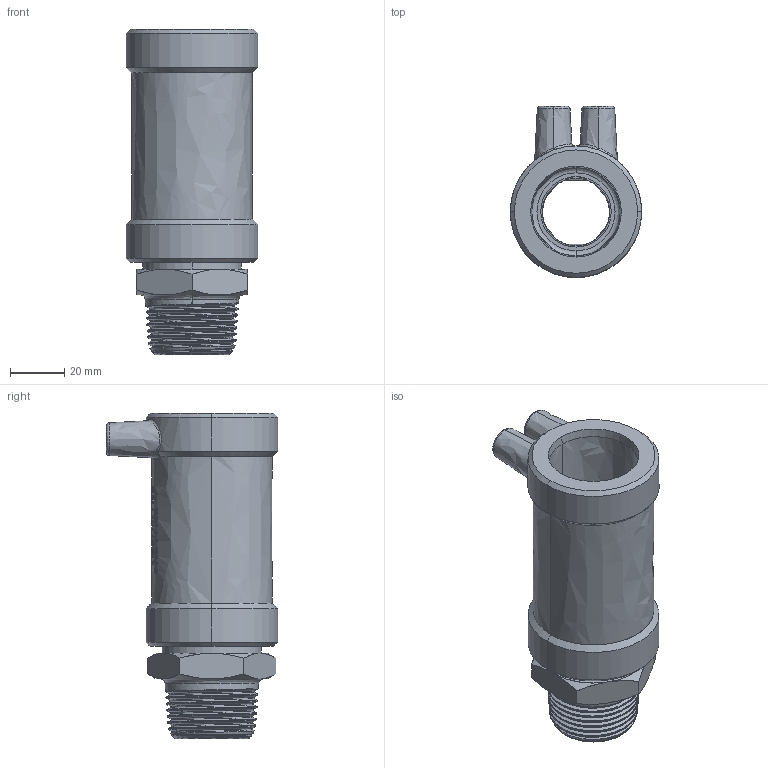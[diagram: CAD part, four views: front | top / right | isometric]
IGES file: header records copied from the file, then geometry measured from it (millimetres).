
Start section:  PTC IGES file: ustn_d32_1_01.igs
Global section: file name: ustn_d32_1_01.igs; native system: Pro/ENGINEER by Parametric Technology Corporation; preprocessor: 2011490; author: mtunjic; organization: Unknown; date: 20130823.111259; units: millimetre
Bounding box: 48.5 x 63.15 x 120 mm (x, y, z)
Surface area: 33913 mm2 (no closed solid volume)
Topology: 0 solids, 0 shells, 244 faces, 1226 edges, 1226 vertices
Faces by surface type: bspline 244
